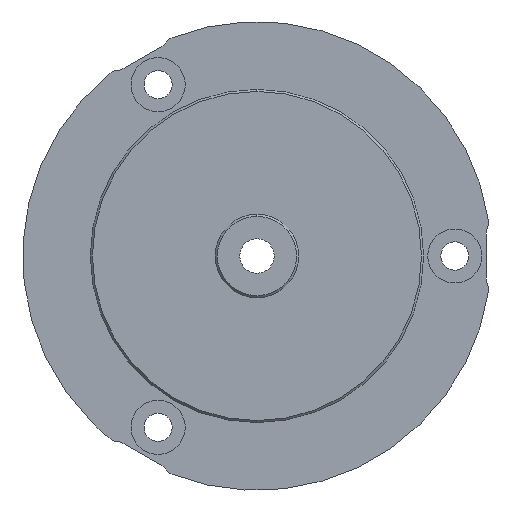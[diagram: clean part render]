
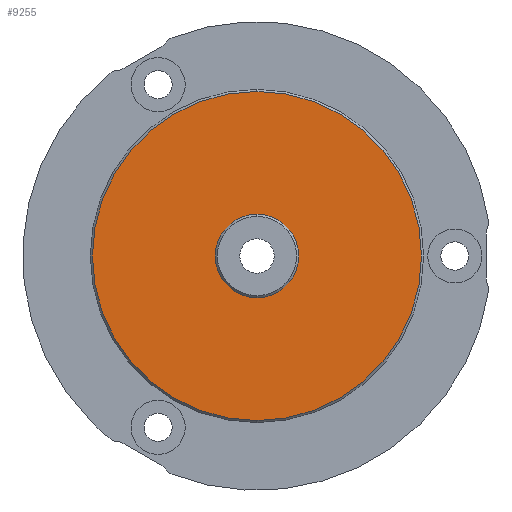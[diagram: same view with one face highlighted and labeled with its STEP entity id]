
A CAD part, front view. The second image highlights one B-rep face of the part: STEP entity #9255.
In plain terms, the highlighted planar face has unit normal (0, -1, 0).
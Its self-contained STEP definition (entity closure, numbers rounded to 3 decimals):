
#107 = ORIENTED_EDGE ( 'NONE', *, *, #44107, .F. ) ;
#2690 = DIRECTION ( 'NONE',  ( 0., 0., 1. ) ) ;
#3137 = EDGE_CURVE ( 'NONE', #33602, #49918, #41231, .T. ) ;
#5437 = CARTESIAN_POINT ( 'NONE',  ( 0., -4.1, -15.8 ) ) ;
#6878 = CARTESIAN_POINT ( 'NONE',  ( 0., -4.1, -4. ) ) ;
#7498 = DIRECTION ( 'NONE',  ( 0., -1., 0. ) ) ;
#7565 = EDGE_LOOP ( 'NONE', ( #8526, #107 ) ) ;
#8526 = ORIENTED_EDGE ( 'NONE', *, *, #3137, .F. ) ;
#9255 = ADVANCED_FACE ( 'NONE', ( #12861, #62354 ), #56885, .F. ) ;
#9990 = DIRECTION ( 'NONE',  ( 0., -1., 0. ) ) ;
#12233 = CARTESIAN_POINT ( 'NONE',  ( 0., -4.1, 15.8 ) ) ;
#12861 = FACE_OUTER_BOUND ( 'NONE', #39263, .T. ) ;
#13838 = AXIS2_PLACEMENT_3D ( 'NONE', #53671, #9990, #14082 ) ;
#14082 = DIRECTION ( 'NONE',  ( 0., 0., 1. ) ) ;
#15048 = DIRECTION ( 'NONE',  ( 0., 0., 1. ) ) ;
#19629 = CIRCLE ( 'NONE', #58080, 4. ) ;
#19665 = EDGE_CURVE ( 'NONE', #55350, #43567, #24285, .T. ) ;
#21031 = CARTESIAN_POINT ( 'NONE',  ( 0., -4.1, 0. ) ) ;
#24059 = DIRECTION ( 'NONE',  ( 0., -1., 0. ) ) ;
#24285 = CIRCLE ( 'NONE', #39511, 15.8 ) ;
#26550 = AXIS2_PLACEMENT_3D ( 'NONE', #52193, #52822, #15048 ) ;
#33602 = VERTEX_POINT ( 'NONE', #33732 ) ;
#33732 = CARTESIAN_POINT ( 'NONE',  ( 0., -4.1, 4. ) ) ;
#37132 = ORIENTED_EDGE ( 'NONE', *, *, #47916, .T. ) ;
#39263 = EDGE_LOOP ( 'NONE', ( #61933, #37132 ) ) ;
#39511 = AXIS2_PLACEMENT_3D ( 'NONE', #50887, #7498, #46142 ) ;
#41231 = CIRCLE ( 'NONE', #13838, 4. ) ;
#43567 = VERTEX_POINT ( 'NONE', #5437 ) ;
#44107 = EDGE_CURVE ( 'NONE', #49918, #33602, #19629, .T. ) ;
#44513 = CIRCLE ( 'NONE', #53565, 15.8 ) ;
#46082 = DIRECTION ( 'NONE',  ( 0., -1., 0. ) ) ;
#46142 = DIRECTION ( 'NONE',  ( 0., 0., 1. ) ) ;
#47916 = EDGE_CURVE ( 'NONE', #43567, #55350, #44513, .T. ) ;
#49918 = VERTEX_POINT ( 'NONE', #6878 ) ;
#50887 = CARTESIAN_POINT ( 'NONE',  ( 0., -4.1, 0. ) ) ;
#52193 = CARTESIAN_POINT ( 'NONE',  ( 0., -4.1, 0. ) ) ;
#52822 = DIRECTION ( 'NONE',  ( 0., 1., 0. ) ) ;
#52932 = DIRECTION ( 'NONE',  ( 0., 0., 1. ) ) ;
#53565 = AXIS2_PLACEMENT_3D ( 'NONE', #56136, #24059, #52932 ) ;
#53671 = CARTESIAN_POINT ( 'NONE',  ( 0., -4.1, 0. ) ) ;
#55350 = VERTEX_POINT ( 'NONE', #12233 ) ;
#56136 = CARTESIAN_POINT ( 'NONE',  ( 0., -4.1, 0. ) ) ;
#56885 = PLANE ( 'NONE',  #26550 ) ;
#58080 = AXIS2_PLACEMENT_3D ( 'NONE', #21031, #46082, #2690 ) ;
#61933 = ORIENTED_EDGE ( 'NONE', *, *, #19665, .T. ) ;
#62354 = FACE_BOUND ( 'NONE', #7565, .T. ) ;
